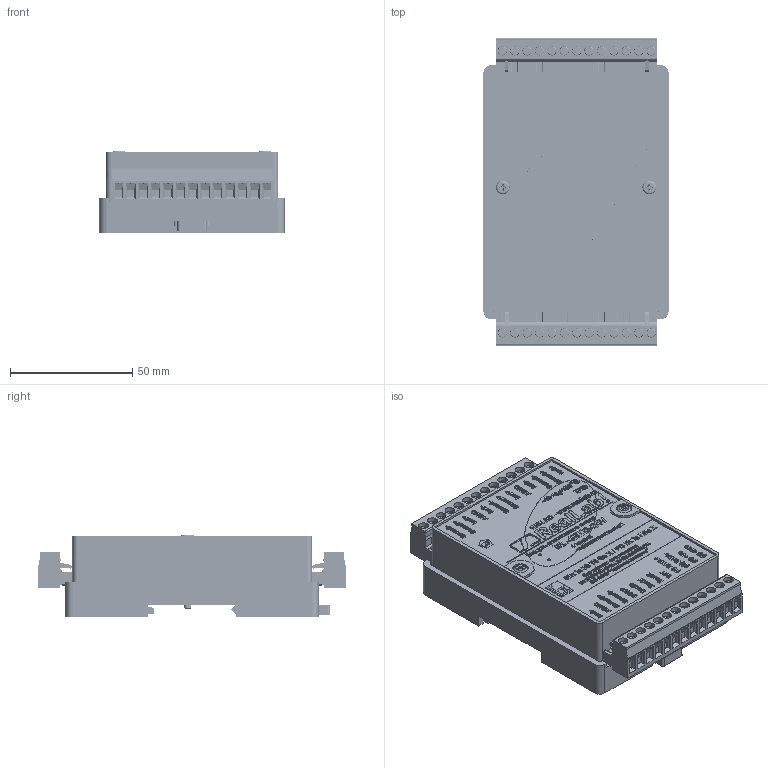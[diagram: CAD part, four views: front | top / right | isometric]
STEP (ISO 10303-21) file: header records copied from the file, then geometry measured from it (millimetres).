
FILE_DESCRIPTION(('STEP AP214'), '1');
FILE_NAME('NL-4RTD-24V', '', ('UNSPECIFIED'), ('UNSPECIFIED'), 'C3D Converter', 'C3D Toolkit', '');
FILE_SCHEMA(('AUTOMOTIVE_DESIGN { 1 0 10303 214 3 1 1}'));
Length unit declared in the file: millimetre
Bounding box: 75.8 x 126.21 x 33.5 mm (x, y, z)
Volume: 85079.4 mm3; surface area: 90430.7 mm2
Topology: 53 solids, 53 shells, 8384 faces, 23400 edges, 15673 vertices
Faces by surface type: plane 3996, extrusion 3697, cylinder 504, torus 118, cone 68, bspline 1
Full cylindrical faces by diameter (mm): 1 x2, 1.4 x26, 2.5 x4, 3 x30, 3.38 x2, 3.6 x4, 3.95 x26, 4 x2, 5.6 x2, 6.3 x2, 6.4 x2, 8 x2
Entity records: 402355 total; most frequent: CARTESIAN_POINT 132208, ORIENTED_EDGE 46426, DIRECTION 30275, EDGE_CURVE 23213, VECTOR 17069, VERTEX_POINT 16861, LINE 13372, B_SPLINE_CURVE_WITH_KNOTS 11589
